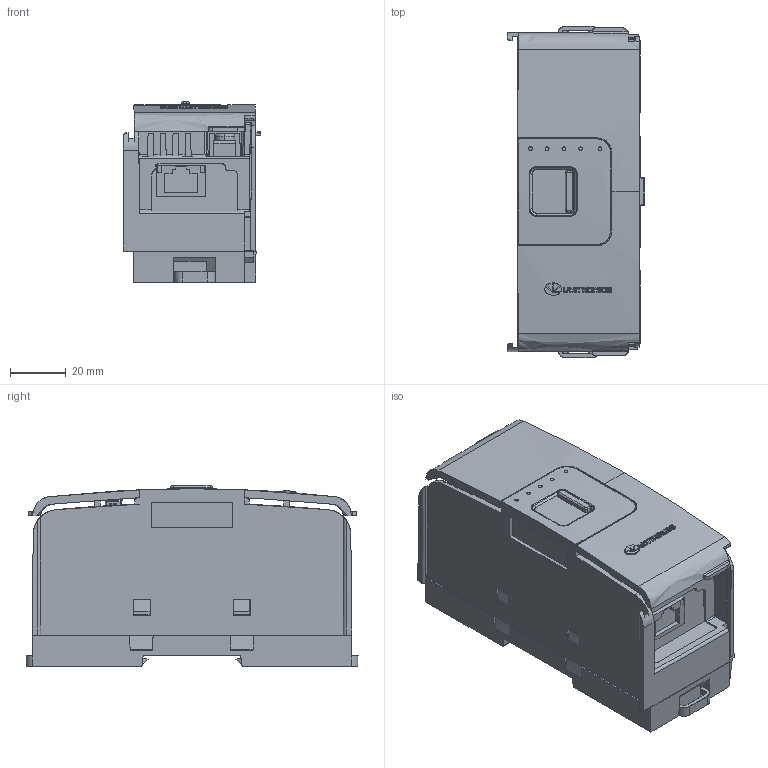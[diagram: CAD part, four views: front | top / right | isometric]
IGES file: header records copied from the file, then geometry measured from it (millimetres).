
Start section: SolidWorks IGES file using analytic representation for surfaces
Global section: file name: Z:\Products\UniStream\EtherCAT\?????\2D_3D Files\CAD FILES\3D\EtherCAT Assmbly.IGS; native system: SolidWorks 2024; preprocessor: SolidWorks 2024; author: OfirZ; date: 260909.114523; units: millimetre
Bounding box: 49.53 x 119.63 x 64.95 mm (x, y, z)
Surface area: 57340 mm2 (no closed solid volume)
Topology: 0 solids, 0 shells, 2043 faces, 16056 edges, 16046 vertices
Faces by surface type: bspline 1636, revolution 407
